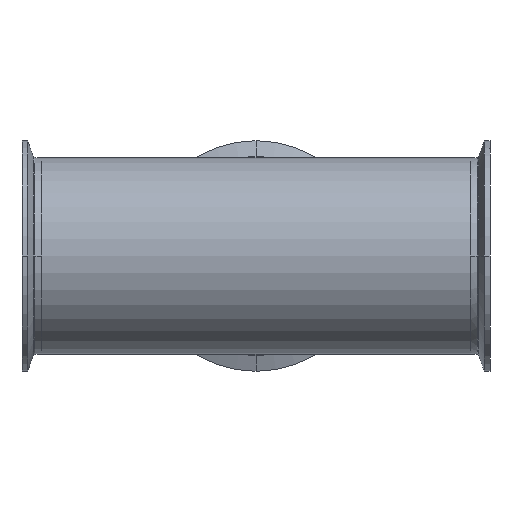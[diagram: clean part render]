
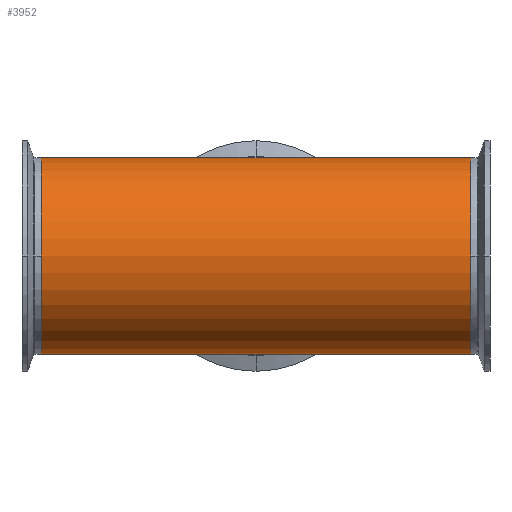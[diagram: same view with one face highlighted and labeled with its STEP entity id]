
A CAD part, front view. The second image highlights one B-rep face of the part: STEP entity #3952.
In plain terms, the highlighted cylindrical face has radius 50.8 mm (diameter 101.6 mm), a partial arc.
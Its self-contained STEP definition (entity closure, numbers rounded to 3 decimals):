
#78 = CARTESIAN_POINT ( 'NONE',  ( -110.7, 0., -50.8 ) ) ;
#83 = ORIENTED_EDGE ( 'NONE', *, *, #4403, .T. ) ;
#87 = DIRECTION ( 'NONE',  ( -1., 0., 0. ) ) ;
#123 = VECTOR ( 'NONE', #3594, 1000. ) ;
#197 = DIRECTION ( 'NONE',  ( 1., 0., 0. ) ) ;
#404 = VECTOR ( 'NONE', #809, 1000. ) ;
#422 = DIRECTION ( 'NONE',  ( 0., 0., 1. ) ) ;
#478 = VERTEX_POINT ( 'NONE', #78 ) ;
#667 = CARTESIAN_POINT ( 'NONE',  ( 254.384, 0., -50.8 ) ) ;
#809 = DIRECTION ( 'NONE',  ( -1., 0., 0. ) ) ;
#839 = VECTOR ( 'NONE', #2499, 1000. ) ;
#971 = CARTESIAN_POINT ( 'NONE',  ( 0., 0., 50.8 ) ) ;
#1097 = ORIENTED_EDGE ( 'NONE', *, *, #1462, .T. ) ;
#1368 = LINE ( 'NONE', #4234, #4161 ) ;
#1462 = EDGE_CURVE ( 'NONE', #1758, #3132, #2476, .T. ) ;
#1504 = AXIS2_PLACEMENT_3D ( 'NONE', #2279, #87, #2665 ) ;
#1691 = EDGE_CURVE ( 'NONE', #3132, #478, #3726, .T. ) ;
#1758 = VERTEX_POINT ( 'NONE', #971 ) ;
#1911 = EDGE_CURVE ( 'NONE', #4457, #3197, #2068, .T. ) ;
#2047 = DIRECTION ( 'NONE',  ( -1., 0., 0. ) ) ;
#2068 = LINE ( 'NONE', #4303, #123 ) ;
#2168 = ORIENTED_EDGE ( 'NONE', *, *, #1691, .T. ) ;
#2279 = CARTESIAN_POINT ( 'NONE',  ( 110.7, 0., 0. ) ) ;
#2381 = CARTESIAN_POINT ( 'NONE',  ( -110.7, 0., 0. ) ) ;
#2476 = LINE ( 'NONE', #3036, #404 ) ;
#2499 = DIRECTION ( 'NONE',  ( -1., 0., 0. ) ) ;
#2665 = DIRECTION ( 'NONE',  ( 0., 0., 1. ) ) ;
#2769 = DIRECTION ( 'NONE',  ( 0., 0., 1. ) ) ;
#2822 = CARTESIAN_POINT ( 'NONE',  ( 110.7, 0., -50.8 ) ) ;
#2858 = CARTESIAN_POINT ( 'NONE',  ( -110.7, 0., 50.8 ) ) ;
#2924 = LINE ( 'NONE', #667, #839 ) ;
#3009 = CARTESIAN_POINT ( 'NONE',  ( 110.7, 0., 50.8 ) ) ;
#3017 = DIRECTION ( 'NONE',  ( -1., 0., 0. ) ) ;
#3036 = CARTESIAN_POINT ( 'NONE',  ( 254.384, 0., 50.8 ) ) ;
#3084 = VERTEX_POINT ( 'NONE', #3009 ) ;
#3132 = VERTEX_POINT ( 'NONE', #2858 ) ;
#3197 = VERTEX_POINT ( 'NONE', #4323 ) ;
#3499 = CIRCLE ( 'NONE', #1504, 50.8 ) ;
#3573 = AXIS2_PLACEMENT_3D ( 'NONE', #2381, #197, #2769 ) ;
#3594 = DIRECTION ( 'NONE',  ( -1., 0., 0. ) ) ;
#3708 = AXIS2_PLACEMENT_3D ( 'NONE', #4467, #3017, #422 ) ;
#3725 = ORIENTED_EDGE ( 'NONE', *, *, #1911, .F. ) ;
#3726 = CIRCLE ( 'NONE', #3573, 50.8 ) ;
#3951 = EDGE_CURVE ( 'NONE', #4457, #3084, #3499, .T. ) ;
#3952 = ADVANCED_FACE ( 'NONE', ( #4450 ), #3985, .T. ) ;
#3985 = CYLINDRICAL_SURFACE ( 'NONE', #3708, 50.8 ) ;
#4161 = VECTOR ( 'NONE', #2047, 1000. ) ;
#4197 = EDGE_CURVE ( 'NONE', #3197, #478, #2924, .T. ) ;
#4234 = CARTESIAN_POINT ( 'NONE',  ( 254.384, 0., 50.8 ) ) ;
#4303 = CARTESIAN_POINT ( 'NONE',  ( 254.384, 0., -50.8 ) ) ;
#4323 = CARTESIAN_POINT ( 'NONE',  ( 0., 0., -50.8 ) ) ;
#4403 = EDGE_CURVE ( 'NONE', #3084, #1758, #1368, .T. ) ;
#4421 = ORIENTED_EDGE ( 'NONE', *, *, #4197, .F. ) ;
#4450 = FACE_OUTER_BOUND ( 'NONE', #4462, .T. ) ;
#4457 = VERTEX_POINT ( 'NONE', #2822 ) ;
#4462 = EDGE_LOOP ( 'NONE', ( #3725, #4737, #83, #1097, #2168, #4421 ) ) ;
#4467 = CARTESIAN_POINT ( 'NONE',  ( 254.384, 0., 0. ) ) ;
#4737 = ORIENTED_EDGE ( 'NONE', *, *, #3951, .T. ) ;
